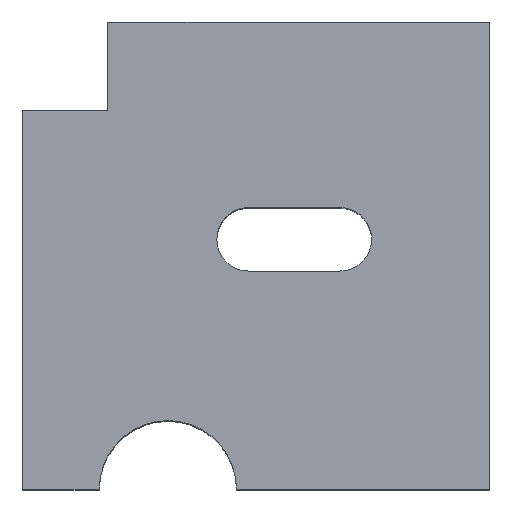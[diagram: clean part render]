
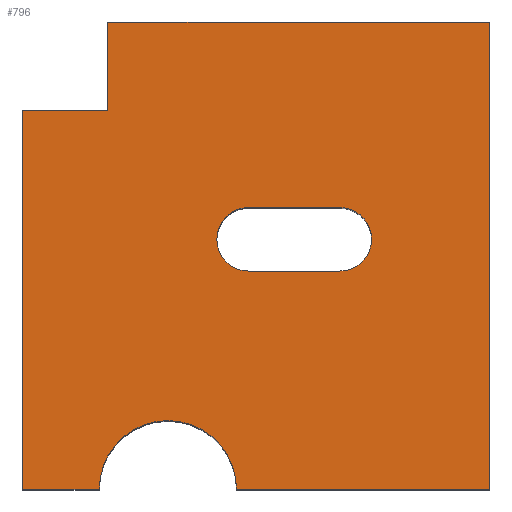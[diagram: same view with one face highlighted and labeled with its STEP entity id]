
A CAD part, top view. The second image highlights one B-rep face of the part: STEP entity #796.
In plain terms, the highlighted planar face has unit normal (0, 0, 1).
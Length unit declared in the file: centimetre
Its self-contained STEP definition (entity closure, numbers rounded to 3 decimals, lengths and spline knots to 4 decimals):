
#44 = DIRECTION ( 'NONE',  ( 1., 0., 0. ) ) ;
#70 = VECTOR ( 'NONE', #44, 100. ) ;
#73 = DIRECTION ( 'NONE',  ( -1., 0., 0. ) ) ;
#77 = CARTESIAN_POINT ( 'NONE',  ( 0., 0., 1000. ) ) ;
#82 = VECTOR ( 'NONE', #647, 100. ) ;
#93 = VERTEX_POINT ( 'NONE', #147 ) ;
#97 = LINE ( 'NONE', #1336, #168 ) ;
#119 = DIRECTION ( 'NONE',  ( 1., 0., 0. ) ) ;
#132 = EDGE_CURVE ( 'NONE', #1022, #658, #1416, .T. ) ;
#147 = CARTESIAN_POINT ( 'NONE',  ( 1000., 1000., 1000. ) ) ;
#148 = LINE ( 'NONE', #597, #1120 ) ;
#153 = LINE ( 'NONE', #797, #70 ) ;
#156 = EDGE_CURVE ( 'NONE', #93, #1452, #1431, .T. ) ;
#168 = VECTOR ( 'NONE', #200, 100. ) ;
#173 = EDGE_CURVE ( 'NONE', #829, #980, #301, .T. ) ;
#187 = VERTEX_POINT ( 'NONE', #866 ) ;
#192 = LINE ( 'NONE', #748, #613 ) ;
#195 = CARTESIAN_POINT ( 'NONE',  ( 484.1714, 466.8627, 1000. ) ) ;
#198 = ORIENTED_EDGE ( 'NONE', *, *, #896, .T. ) ;
#200 = DIRECTION ( 'NONE',  ( 0., 1., 0. ) ) ;
#205 = ORIENTED_EDGE ( 'NONE', *, *, #406, .F. ) ;
#209 = ORIENTED_EDGE ( 'NONE', *, *, #474, .F. ) ;
#220 = EDGE_CURVE ( 'NONE', #1241, #93, #1193, .T. ) ;
#225 = EDGE_CURVE ( 'NONE', #891, #1173, #899, .T. ) ;
#290 = VECTOR ( 'NONE', #930, 100. ) ;
#301 = LINE ( 'NONE', #77, #307 ) ;
#307 = VECTOR ( 'NONE', #628, 100. ) ;
#310 = DIRECTION ( 'NONE',  ( 0., 0., 1. ) ) ;
#334 = CARTESIAN_POINT ( 'NONE',  ( 747.2704, 534.8828, 1000. ) ) ;
#406 = EDGE_CURVE ( 'NONE', #1468, #980, #990, .T. ) ;
#408 = CARTESIAN_POINT ( 'NONE',  ( 679.2503, 534.8828, 1000. ) ) ;
#427 = EDGE_CURVE ( 'NONE', #997, #187, #1064, .T. ) ;
#474 = EDGE_CURVE ( 'NONE', #529, #1022, #148, .T. ) ;
#506 = ORIENTED_EDGE ( 'NONE', *, *, #132, .F. ) ;
#509 = DIRECTION ( 'NONE',  ( 0., 0., 1. ) ) ;
#517 = DIRECTION ( 'NONE',  ( 1., 0., 0. ) ) ;
#529 = VERTEX_POINT ( 'NONE', #1030 ) ;
#544 = PLANE ( 'NONE',  #1175 ) ;
#560 = EDGE_LOOP ( 'NONE', ( #506, #209, #1240, #1388, #723 ) ) ;
#572 = ORIENTED_EDGE ( 'NONE', *, *, #156, .T. ) ;
#578 = AXIS2_PLACEMENT_3D ( 'NONE', #408, #1212, #517 ) ;
#584 = CARTESIAN_POINT ( 'NONE',  ( 679.2503, 466.8627, 1000. ) ) ;
#597 = CARTESIAN_POINT ( 'NONE',  ( 679.2503, 602.9029, 1000. ) ) ;
#601 = CARTESIAN_POINT ( 'NONE',  ( 0., 1000., 1000. ) ) ;
#613 = VECTOR ( 'NONE', #743, 100. ) ;
#617 = DIRECTION ( 'NONE',  ( 1., 0., 0. ) ) ;
#628 = DIRECTION ( 'NONE',  ( 1., 0., 0. ) ) ;
#647 = DIRECTION ( 'NONE',  ( 0., 1., 0. ) ) ;
#656 = FACE_OUTER_BOUND ( 'NONE', #955, .T. ) ;
#658 = VERTEX_POINT ( 'NONE', #195 ) ;
#662 = CARTESIAN_POINT ( 'NONE',  ( 0., 0., 1000. ) ) ;
#723 = ORIENTED_EDGE ( 'NONE', *, *, #1056, .F. ) ;
#743 = DIRECTION ( 'NONE',  ( 1., 0., 0. ) ) ;
#748 = CARTESIAN_POINT ( 'NONE',  ( 484.1714, 466.8627, 1000. ) ) ;
#751 = ORIENTED_EDGE ( 'NONE', *, *, #220, .T. ) ;
#759 = DIRECTION ( 'NONE',  ( 0., 0., 1. ) ) ;
#764 = DIRECTION ( 'NONE',  ( 1., 0., 0. ) ) ;
#765 = FACE_BOUND ( 'NONE', #560, .T. ) ;
#789 = ORIENTED_EDGE ( 'NONE', *, *, #427, .F. ) ;
#796 = ADVANCED_FACE ( 'NONE', ( #656, #765 ), #544, .T. ) ;
#797 = CARTESIAN_POINT ( 'NONE',  ( 0., 0., 1000. ) ) ;
#829 = VERTEX_POINT ( 'NONE', #662 ) ;
#841 = CARTESIAN_POINT ( 'NONE',  ( 484.1714, 534.8828, 1000. ) ) ;
#842 = CARTESIAN_POINT ( 'NONE',  ( 0., 811.4771, 1000. ) ) ;
#866 = CARTESIAN_POINT ( 'NONE',  ( 182.8751, 811.4771, 1000. ) ) ;
#883 = ORIENTED_EDGE ( 'NONE', *, *, #1300, .F. ) ;
#891 = VERTEX_POINT ( 'NONE', #584 ) ;
#896 = EDGE_CURVE ( 'NONE', #1468, #1241, #153, .T. ) ;
#899 = CIRCLE ( 'NONE', #578, 68.0201 ) ;
#930 = DIRECTION ( 'NONE',  ( 1., 0., 0. ) ) ;
#934 = CARTESIAN_POINT ( 'NONE',  ( 182.8751, 1000., 1000. ) ) ;
#944 = CARTESIAN_POINT ( 'NONE',  ( 484.1714, 602.9029, 1000. ) ) ;
#955 = EDGE_LOOP ( 'NONE', ( #883, #789, #1091, #1118, #205, #198, #751, #572 ) ) ;
#964 = AXIS2_PLACEMENT_3D ( 'NONE', #1359, #310, #764 ) ;
#980 = VERTEX_POINT ( 'NONE', #1291 ) ;
#990 = CIRCLE ( 'NONE', #1442, 146.8961 ) ;
#997 = VERTEX_POINT ( 'NONE', #1061 ) ;
#1022 = VERTEX_POINT ( 'NONE', #944 ) ;
#1030 = CARTESIAN_POINT ( 'NONE',  ( 679.2503, 602.9029, 1000. ) ) ;
#1043 = DIRECTION ( 'NONE',  ( -1., 0., 0. ) ) ;
#1056 = EDGE_CURVE ( 'NONE', #658, #891, #192, .T. ) ;
#1061 = CARTESIAN_POINT ( 'NONE',  ( 0., 811.4771, 1000. ) ) ;
#1064 = LINE ( 'NONE', #842, #290 ) ;
#1084 = CARTESIAN_POINT ( 'NONE',  ( 0., 1000., 1000. ) ) ;
#1088 = CIRCLE ( 'NONE', #964, 68.0201 ) ;
#1091 = ORIENTED_EDGE ( 'NONE', *, *, #1371, .T. ) ;
#1093 = CARTESIAN_POINT ( 'NONE',  ( 1000., 1000., 1000. ) ) ;
#1118 = ORIENTED_EDGE ( 'NONE', *, *, #173, .T. ) ;
#1120 = VECTOR ( 'NONE', #1043, 100. ) ;
#1150 = CARTESIAN_POINT ( 'NONE',  ( 458.3409, 0., 1000. ) ) ;
#1157 = LINE ( 'NONE', #601, #1207 ) ;
#1172 = DIRECTION ( 'NONE',  ( 0., 0., 1. ) ) ;
#1173 = VERTEX_POINT ( 'NONE', #334 ) ;
#1175 = AXIS2_PLACEMENT_3D ( 'NONE', #1361, #759, #119 ) ;
#1181 = CARTESIAN_POINT ( 'NONE',  ( 311.4448, 0., 1000. ) ) ;
#1189 = AXIS2_PLACEMENT_3D ( 'NONE', #841, #509, #1310 ) ;
#1193 = LINE ( 'NONE', #1093, #82 ) ;
#1201 = EDGE_CURVE ( 'NONE', #1173, #529, #1088, .T. ) ;
#1207 = VECTOR ( 'NONE', #1377, 100. ) ;
#1212 = DIRECTION ( 'NONE',  ( 0., 0., 1. ) ) ;
#1240 = ORIENTED_EDGE ( 'NONE', *, *, #1201, .F. ) ;
#1241 = VERTEX_POINT ( 'NONE', #1244 ) ;
#1244 = CARTESIAN_POINT ( 'NONE',  ( 1000., 0., 1000. ) ) ;
#1291 = CARTESIAN_POINT ( 'NONE',  ( 164.5486, 0., 1000. ) ) ;
#1300 = EDGE_CURVE ( 'NONE', #187, #1452, #97, .T. ) ;
#1310 = DIRECTION ( 'NONE',  ( 1., 0., 0. ) ) ;
#1336 = CARTESIAN_POINT ( 'NONE',  ( 182.8751, 811.4771, 1000. ) ) ;
#1359 = CARTESIAN_POINT ( 'NONE',  ( 679.2503, 534.8828, 1000. ) ) ;
#1361 = CARTESIAN_POINT ( 'NONE',  ( 0., 0., 1000. ) ) ;
#1365 = VECTOR ( 'NONE', #73, 100. ) ;
#1371 = EDGE_CURVE ( 'NONE', #997, #829, #1157, .T. ) ;
#1377 = DIRECTION ( 'NONE',  ( 0., -1., 0. ) ) ;
#1388 = ORIENTED_EDGE ( 'NONE', *, *, #225, .F. ) ;
#1416 = CIRCLE ( 'NONE', #1189, 68.0201 ) ;
#1431 = LINE ( 'NONE', #1084, #1365 ) ;
#1442 = AXIS2_PLACEMENT_3D ( 'NONE', #1181, #1172, #617 ) ;
#1452 = VERTEX_POINT ( 'NONE', #934 ) ;
#1468 = VERTEX_POINT ( 'NONE', #1150 ) ;
